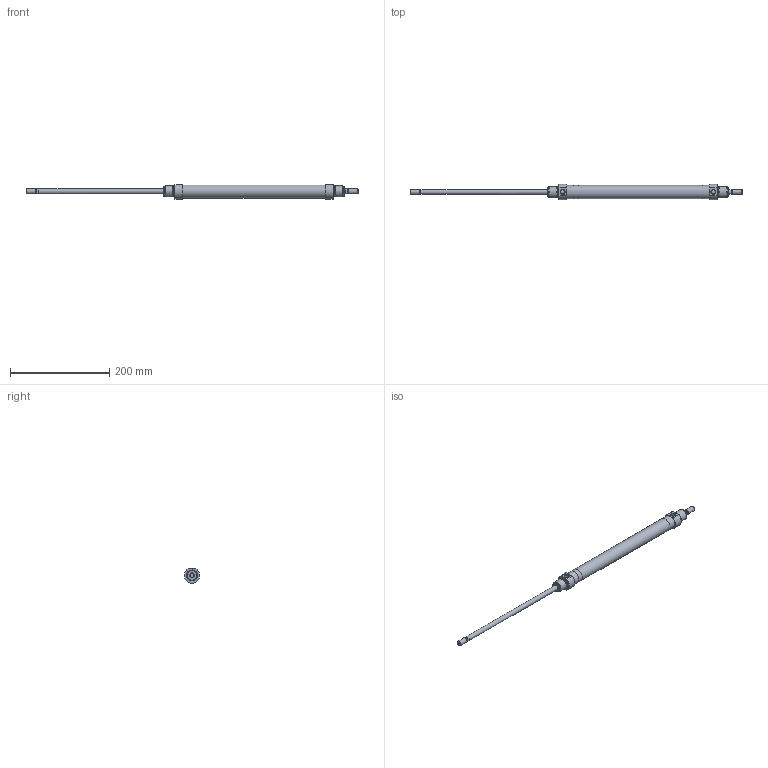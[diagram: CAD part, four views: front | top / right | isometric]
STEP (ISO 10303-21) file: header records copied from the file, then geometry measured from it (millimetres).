
FILE_DESCRIPTION( ( 'STEP AP203' ), '1' );
FILE_NAME( '//expscmdclustefs.cadenas.external/client_exchange/iodir/jobs/output/wkb68469749_no0/STEP/M101-025-0250-M__0__2_03.stp', ' ', ( ' ' ), ( ' ' ), 'PSStep 15.0.47', 'PARTsolutions', ' ' );
FILE_SCHEMA( ( 'CONFIG_CONTROL_DESIGN' ) );
Length unit declared in the file: millimetre
Products named in the file (3): M101-025-0250-M [0]; HI_M101-025-0250-M-[0]-z; HI_M101-025-0250-M-[0]-k
Assembly tree (2 placements, depth 2):
  M101-025-0250-M [0]
    HI_M101-025-0250-M-[0]-z
    HI_M101-025-0250-M-[0]-k
Bounding box: 669 x 31 x 28.79 mm (x, y, z)
Volume: 118897.4 mm3; surface area: 78998.9 mm2
Topology: 2 solids, 2 shells, 63 faces, 123 edges, 74 vertices
Faces by surface type: plane 28, cylinder 23, cone 10, torus 2
Full cylindrical faces by diameter (mm): 8.16 x2, 8.566 x2, 10 x6, 20.16 x4, 22 x4, 25 x2, 26.6 x1
Entity records: 1700 total; most frequent: CARTESIAN_POINT 390, DIRECTION 276, ORIENTED_EDGE 176, AXIS2_PLACEMENT_3D 124, EDGE_LOOP 112, EDGE_CURVE 88, FACE_OUTER_BOUND 86, VERTEX_POINT 72
